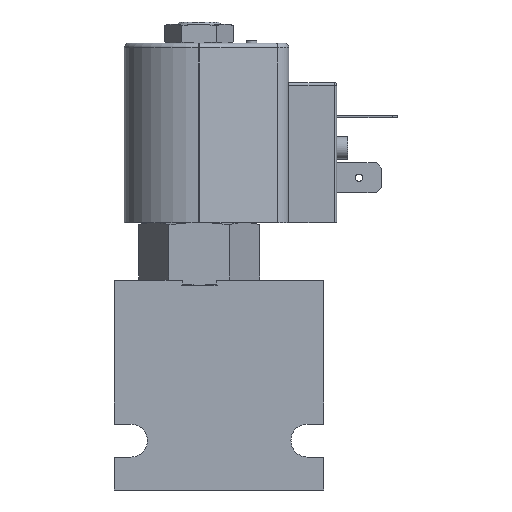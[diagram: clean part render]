
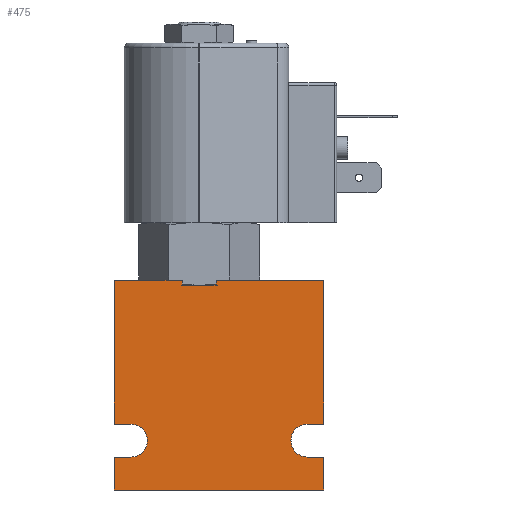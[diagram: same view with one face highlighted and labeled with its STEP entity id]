
A CAD part, front view. The second image highlights one B-rep face of the part: STEP entity #475.
In plain terms, the highlighted planar face has unit normal (0, -1, 0).
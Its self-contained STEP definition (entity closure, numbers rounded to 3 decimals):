
#475 = ADVANCED_FACE( '', ( #1089 ), #1090, .T. );
#1089 = FACE_OUTER_BOUND( '', #2030, .T. );
#1090 = PLANE( '', #2031 );
#2030 = EDGE_LOOP( '', ( #2935, #2936, #2937, #2938, #2939, #2940, #2941, #2942, #2943, #2944, #2945, #2946, #2947, #2948, #2949, #2950 ) );
#2031 = AXIS2_PLACEMENT_3D( '', #2951, #2952, #2953 );
#2935 = ORIENTED_EDGE( '', *, *, #4948, .T. );
#2936 = ORIENTED_EDGE( '', *, *, #4949, .T. );
#2937 = ORIENTED_EDGE( '', *, *, #4950, .T. );
#2938 = ORIENTED_EDGE( '', *, *, #4951, .F. );
#2939 = ORIENTED_EDGE( '', *, *, #4952, .F. );
#2940 = ORIENTED_EDGE( '', *, *, #4953, .F. );
#2941 = ORIENTED_EDGE( '', *, *, #4954, .F. );
#2942 = ORIENTED_EDGE( '', *, *, #4955, .F. );
#2943 = ORIENTED_EDGE( '', *, *, #4956, .F. );
#2944 = ORIENTED_EDGE( '', *, *, #4957, .T. );
#2945 = ORIENTED_EDGE( '', *, *, #4958, .F. );
#2946 = ORIENTED_EDGE( '', *, *, #4959, .F. );
#2947 = ORIENTED_EDGE( '', *, *, #4960, .F. );
#2948 = ORIENTED_EDGE( '', *, *, #4961, .T. );
#2949 = ORIENTED_EDGE( '', *, *, #4962, .T. );
#2950 = ORIENTED_EDGE( '', *, *, #4963, .T. );
#2951 = CARTESIAN_POINT( '', ( 22.25, -12.7, 44.5 ) );
#2952 = DIRECTION( '', ( 0., -1., 0. ) );
#2953 = DIRECTION( '', ( 1., 0., 0. ) );
#4948 = EDGE_CURVE( '', #5695, #5696, #5697, .F. );
#4949 = EDGE_CURVE( '', #5696, #5698, #5699, .T. );
#4950 = EDGE_CURVE( '', #5698, #5700, #5701, .T. );
#4951 = EDGE_CURVE( '', #5702, #5700, #5703, .T. );
#4952 = EDGE_CURVE( '', #5704, #5702, #5705, .T. );
#4953 = EDGE_CURVE( '', #5706, #5704, #5707, .T. );
#4954 = EDGE_CURVE( '', #5708, #5706, #5709, .T. );
#4955 = EDGE_CURVE( '', #5710, #5708, #5711, .T. );
#4956 = EDGE_CURVE( '', #5712, #5710, #5713, .T. );
#4957 = EDGE_CURVE( '', #5712, #5714, #5715, .T. );
#4958 = EDGE_CURVE( '', #5716, #5714, #5717, .F. );
#4959 = EDGE_CURVE( '', #5718, #5716, #5719, .T. );
#4960 = EDGE_CURVE( '', #5720, #5718, #5721, .T. );
#4961 = EDGE_CURVE( '', #5720, #5722, #5723, .T. );
#4962 = EDGE_CURVE( '', #5722, #5724, #5725, .T. );
#4963 = EDGE_CURVE( '', #5724, #5695, #5726, .T. );
#5695 = VERTEX_POINT( '', #6787 );
#5696 = VERTEX_POINT( '', #6788 );
#5697 = CIRCLE( '', #6789, 3.5 );
#5698 = VERTEX_POINT( '', #6790 );
#5699 = LINE( '', #6791, #6792 );
#5700 = VERTEX_POINT( '', #6793 );
#5701 = LINE( '', #6794, #6795 );
#5702 = VERTEX_POINT( '', #6796 );
#5703 = LINE( '', #6797, #6798 );
#5704 = VERTEX_POINT( '', #6799 );
#5705 = LINE( '', #6800, #6801 );
#5706 = VERTEX_POINT( '', #6802 );
#5707 = LINE( '', #6803, #6804 );
#5708 = VERTEX_POINT( '', #6805 );
#5709 = CIRCLE( '', #6806, 3.5 );
#5710 = VERTEX_POINT( '', #6807 );
#5711 = LINE( '', #6808, #6809 );
#5712 = VERTEX_POINT( '', #6810 );
#5713 = LINE( '', #6811, #6812 );
#5714 = VERTEX_POINT( '', #6813 );
#5715 = LINE( '', #6814, #6815 );
#5716 = VERTEX_POINT( '', #6816 );
#5717 = LINE( '', #6817, #6818 );
#5718 = VERTEX_POINT( '', #6819 );
#5719 = LINE( '', #6820, #6821 );
#5720 = VERTEX_POINT( '', #6822 );
#5721 = LINE( '', #6823, #6824 );
#5722 = VERTEX_POINT( '', #6825 );
#5723 = LINE( '', #6826, #6827 );
#5724 = VERTEX_POINT( '', #6828 );
#5725 = LINE( '', #6829, #6830 );
#5726 = LINE( '', #6831, #6832 );
#6787 = CARTESIAN_POINT( '', ( -18.75, -12.7, 14. ) );
#6788 = CARTESIAN_POINT( '', ( -18.75, -12.7, 7. ) );
#6789 = AXIS2_PLACEMENT_3D( '', #8681, #8682, #8683 );
#6790 = CARTESIAN_POINT( '', ( -22.25, -12.7, 7. ) );
#6791 = CARTESIAN_POINT( '', ( 22.25, -12.7, 7. ) );
#6792 = VECTOR( '', #8684, 1000. );
#6793 = CARTESIAN_POINT( '', ( -22.25, -12.7, 0. ) );
#6794 = CARTESIAN_POINT( '', ( -22.25, -12.7, 44.5 ) );
#6795 = VECTOR( '', #8685, 1000. );
#6796 = CARTESIAN_POINT( '', ( 22.25, -12.7, 0. ) );
#6797 = CARTESIAN_POINT( '', ( 22.25, -12.7, 0. ) );
#6798 = VECTOR( '', #8686, 1000. );
#6799 = CARTESIAN_POINT( '', ( 22.25, -12.7, 7. ) );
#6800 = CARTESIAN_POINT( '', ( 22.25, -12.7, 44.5 ) );
#6801 = VECTOR( '', #8687, 1000. );
#6802 = CARTESIAN_POINT( '', ( 18.75, -12.7, 7. ) );
#6803 = CARTESIAN_POINT( '', ( 22.25, -12.7, 7. ) );
#6804 = VECTOR( '', #8688, 1000. );
#6805 = CARTESIAN_POINT( '', ( 18.75, -12.7, 14. ) );
#6806 = AXIS2_PLACEMENT_3D( '', #8689, #8690, #8691 );
#6807 = CARTESIAN_POINT( '', ( 22.25, -12.7, 14. ) );
#6808 = CARTESIAN_POINT( '', ( 22.25, -12.7, 14. ) );
#6809 = VECTOR( '', #8692, 1000. );
#6810 = CARTESIAN_POINT( '', ( 22.25, -12.7, 44.5 ) );
#6811 = CARTESIAN_POINT( '', ( 22.25, -12.7, 44.5 ) );
#6812 = VECTOR( '', #8693, 1000. );
#6813 = CARTESIAN_POINT( '', ( -0.657, -12.7, 44.5 ) );
#6814 = CARTESIAN_POINT( '', ( 22.25, -12.7, 44.5 ) );
#6815 = VECTOR( '', #8694, 1000. );
#6816 = CARTESIAN_POINT( '', ( -0.657, -12.7, 43.5 ) );
#6817 = CARTESIAN_POINT( '', ( -0.657, -12.7, 44.5 ) );
#6818 = VECTOR( '', #8695, 1000. );
#6819 = CARTESIAN_POINT( '', ( -7.843, -12.7, 43.5 ) );
#6820 = CARTESIAN_POINT( '', ( 22.25, -12.7, 43.5 ) );
#6821 = VECTOR( '', #8696, 1000. );
#6822 = CARTESIAN_POINT( '', ( -7.843, -12.7, 44.5 ) );
#6823 = CARTESIAN_POINT( '', ( -7.843, -12.7, 44.5 ) );
#6824 = VECTOR( '', #8697, 1000. );
#6825 = CARTESIAN_POINT( '', ( -22.25, -12.7, 44.5 ) );
#6826 = CARTESIAN_POINT( '', ( 22.25, -12.7, 44.5 ) );
#6827 = VECTOR( '', #8698, 1000. );
#6828 = CARTESIAN_POINT( '', ( -22.25, -12.7, 14. ) );
#6829 = CARTESIAN_POINT( '', ( -22.25, -12.7, 44.5 ) );
#6830 = VECTOR( '', #8699, 1000. );
#6831 = CARTESIAN_POINT( '', ( 22.25, -12.7, 14. ) );
#6832 = VECTOR( '', #8700, 1000. );
#8681 = CARTESIAN_POINT( '', ( -18.75, -12.7, 10.5 ) );
#8682 = DIRECTION( '', ( 0., -1., 0. ) );
#8683 = DIRECTION( '', ( 1., 0., 0. ) );
#8684 = DIRECTION( '', ( -1., 0., 0. ) );
#8685 = DIRECTION( '', ( 0., 0., -1. ) );
#8686 = DIRECTION( '', ( -1., 0., 0. ) );
#8687 = DIRECTION( '', ( 0., 0., -1. ) );
#8688 = DIRECTION( '', ( 1., 0., 0. ) );
#8689 = CARTESIAN_POINT( '', ( 18.75, -12.7, 10.5 ) );
#8690 = DIRECTION( '', ( 0., -1., 0. ) );
#8691 = DIRECTION( '', ( 1., 0., 0. ) );
#8692 = DIRECTION( '', ( -1., 0., 0. ) );
#8693 = DIRECTION( '', ( 0., 0., -1. ) );
#8694 = DIRECTION( '', ( -1., 0., 0. ) );
#8695 = DIRECTION( '', ( 0., 0., -1. ) );
#8696 = DIRECTION( '', ( 1., 0., 0. ) );
#8697 = DIRECTION( '', ( 0., 0., -1. ) );
#8698 = DIRECTION( '', ( -1., 0., 0. ) );
#8699 = DIRECTION( '', ( 0., 0., -1. ) );
#8700 = DIRECTION( '', ( 1., 0., 0. ) );
